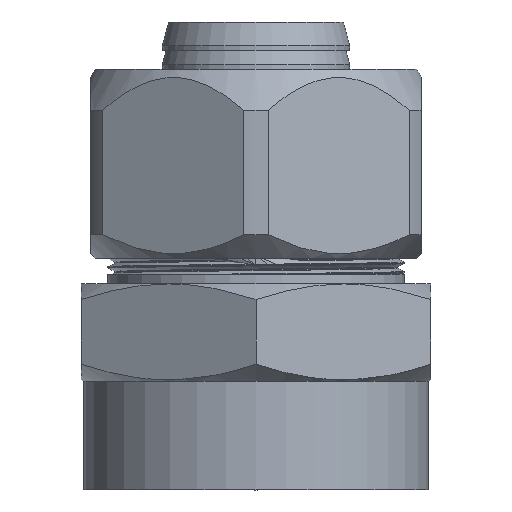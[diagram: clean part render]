
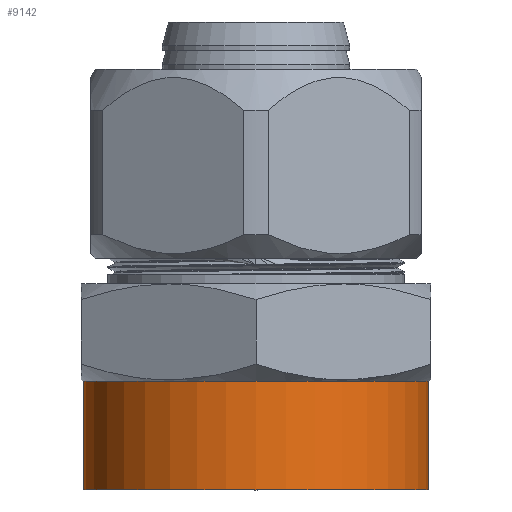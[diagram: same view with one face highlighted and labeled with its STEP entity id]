
A CAD part, front view. The second image highlights one B-rep face of the part: STEP entity #9142.
In plain terms, the highlighted cylindrical face has radius 18.25 mm (diameter 36.5 mm), a full revolution.
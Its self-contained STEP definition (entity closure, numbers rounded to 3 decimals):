
#1044=CYLINDRICAL_SURFACE('',#9792,18.25);
#1296=FACE_OUTER_BOUND('',#1831,.T.);
#1831=EDGE_LOOP('',(#6278,#6279,#6280,#6281,#6282,#6283));
#2393=CIRCLE('',#9747,18.25);
#2394=CIRCLE('',#9748,18.25);
#2416=CIRCLE('',#9790,18.25);
#2417=CIRCLE('',#9791,18.25);
#2647=LINE('',#12023,#3181);
#3181=VECTOR('',#10385,18.25);
#3743=VERTEX_POINT('',#11898);
#3744=VERTEX_POINT('',#11900);
#3772=VERTEX_POINT('',#12018);
#3773=VERTEX_POINT('',#12019);
#4727=EDGE_CURVE('',#3744,#3743,#2393,.T.);
#4728=EDGE_CURVE('',#3743,#3744,#2394,.T.);
#4773=EDGE_CURVE('',#3772,#3773,#2416,.T.);
#4774=EDGE_CURVE('',#3773,#3772,#2417,.T.);
#4775=EDGE_CURVE('',#3744,#3773,#2647,.T.);
#6278=ORIENTED_EDGE('',*,*,#4727,.T.);
#6279=ORIENTED_EDGE('',*,*,#4728,.T.);
#6280=ORIENTED_EDGE('',*,*,#4775,.T.);
#6281=ORIENTED_EDGE('',*,*,#4774,.T.);
#6282=ORIENTED_EDGE('',*,*,#4773,.T.);
#6283=ORIENTED_EDGE('',*,*,#4775,.F.);
#9142=ADVANCED_FACE('',(#1296),#1044,.T.);
#9747=AXIS2_PLACEMENT_3D('',#11901,#10282,#10283);
#9748=AXIS2_PLACEMENT_3D('',#11902,#10284,#10285);
#9790=AXIS2_PLACEMENT_3D('',#12020,#10379,#10380);
#9791=AXIS2_PLACEMENT_3D('',#12021,#10381,#10382);
#9792=AXIS2_PLACEMENT_3D('',#12022,#10383,#10384);
#10282=DIRECTION('center_axis',(0.,0.,-1.));
#10283=DIRECTION('ref_axis',(0.,-1.,0.));
#10284=DIRECTION('center_axis',(0.,0.,-1.));
#10285=DIRECTION('ref_axis',(0.,-1.,0.));
#10379=DIRECTION('center_axis',(0.,0.,1.));
#10380=DIRECTION('ref_axis',(1.,0.,0.));
#10381=DIRECTION('center_axis',(0.,0.,1.));
#10382=DIRECTION('ref_axis',(1.,0.,0.));
#10383=DIRECTION('center_axis',(0.,0.,1.));
#10384=DIRECTION('ref_axis',(0.,-1.,0.));
#10385=DIRECTION('',(0.,0.,-1.));
#11898=CARTESIAN_POINT('',(0.,-18.25,11.51));
#11900=CARTESIAN_POINT('',(0.,18.25,11.51));
#11901=CARTESIAN_POINT('Origin',(0.,0.,11.51));
#11902=CARTESIAN_POINT('Origin',(0.,0.,11.51));
#12018=CARTESIAN_POINT('',(0.,-18.25,0.01));
#12019=CARTESIAN_POINT('',(0.,18.25,0.01));
#12020=CARTESIAN_POINT('Origin',(0.,0.,0.01));
#12021=CARTESIAN_POINT('Origin',(0.,0.,0.01));
#12022=CARTESIAN_POINT('Origin',(0.,0.,10.91));
#12023=CARTESIAN_POINT('',(0.,18.25,10.91));
